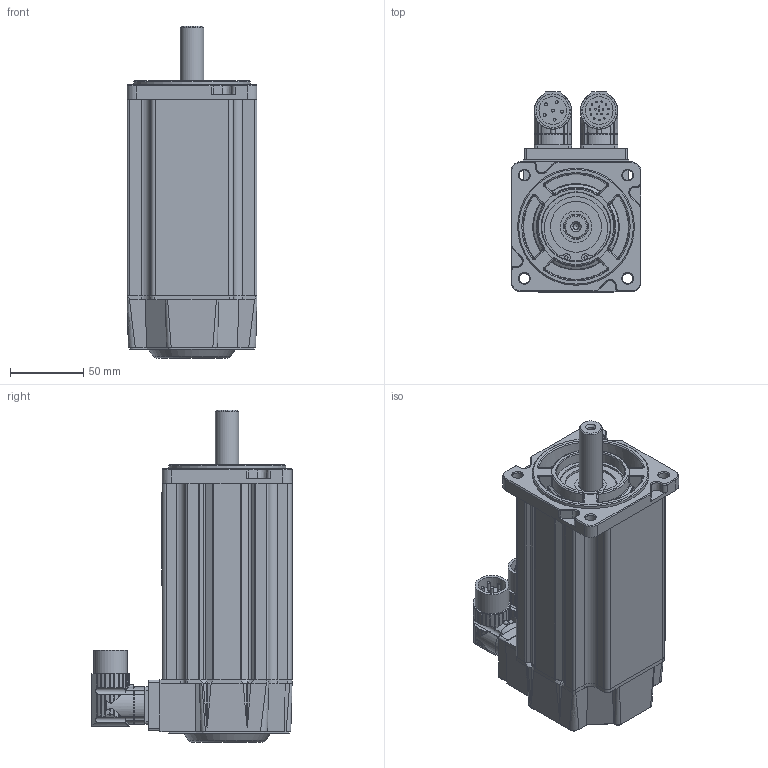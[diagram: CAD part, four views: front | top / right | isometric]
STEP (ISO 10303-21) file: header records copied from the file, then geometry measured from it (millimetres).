
FILE_DESCRIPTION((''),'2;1');
FILE_NAME('C:\CAD_work\Dummy_Modeling_Project_02-12-05\3D MODELS\MPP0922XXX_NPSB.stp','2005-12-20T17:01:07',('jevans'),(''),'Autodesk Inventor 10','Autodesk Inventor 10','');
FILE_SCHEMA(('AUTOMOTIVE_DESIGN { 1 0 10303 214 1 1 1 1 }'));
Length unit declared in the file: inch
Products named in the file (1): MPP092_MOTOR
Bounding box: 88.9 x 137.01 x 227.28 mm (x, y, z)
Volume: 1317835.2 mm3; surface area: 108364.1 mm2
Topology: 1 solids, 1 shells, 797 faces, 2073 edges, 1309 vertices
Faces by surface type: bspline 302, cylinder 249, plane 211, cone 24, torus 11
Full cylindrical faces by diameter (mm): 1.016 x17, 1.956 x6, 2.362 x2, 15.999 x1, 16.002 x1, 19.05 x1, 19.66 x1, 21.59 x1, 22.86 x1, 34.823 x1, 46.253 x1, 46.761 x1, 47.015 x2, 49.835 x1, 52.324 x1, 74.93 x1, 80 x1
Entity records: 35727 total; most frequent: CARTESIAN_POINT 18205, ORIENTED_EDGE 3998, DIRECTION 3012, EDGE_CURVE 1999, VERTEX_POINT 1299, AXIS2_PLACEMENT_3D 1127, EDGE_LOOP 924, FACE_OUTER_BOUND 797
